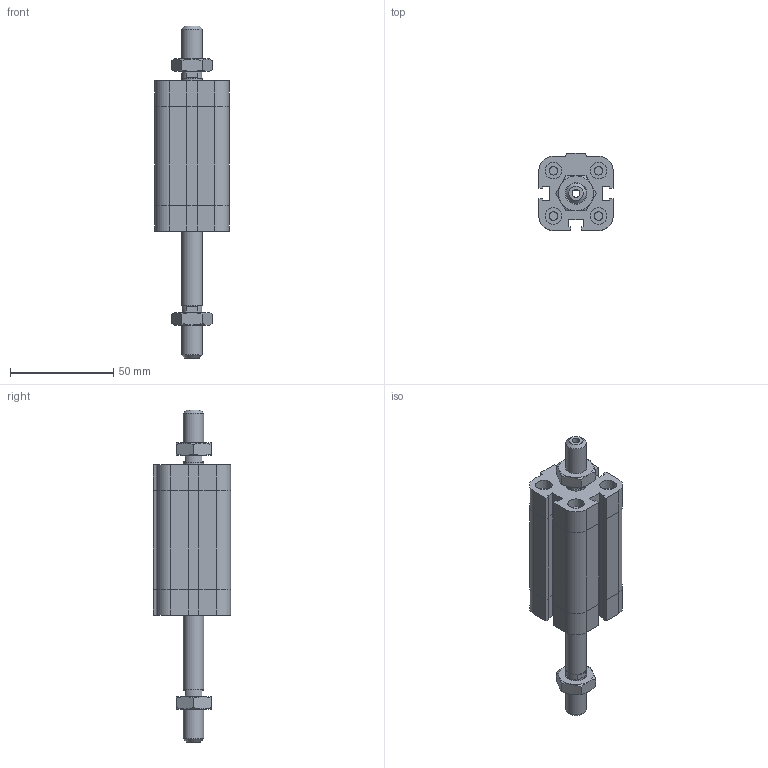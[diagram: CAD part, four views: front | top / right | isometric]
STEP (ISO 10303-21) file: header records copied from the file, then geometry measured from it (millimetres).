
FILE_DESCRIPTION((''),'2;1');
FILE_NAME('I:\Area Tecnica\Disegni\VARIE-3D\Componenti\EUROPE\15##_###_####_05_#\1581_20_0035_05_1.iam.stp','2009-04-20T14:59:56',(''),(''),'Autodesk Inventor 2009','Autodesk Inventor 2009','');
FILE_SCHEMA(('AUTOMOTIVE_DESIGN { 1 0 10303 214 1 1 1 1 }'));
Length unit declared in the file: millimetre
Products named in the file (4): 1581_20_0035_05_1; 1581_20_0035_03_1_C; 1561_20_0035_05_1_S; DBFM10
Assembly tree (4 placements, depth 2):
  1581_20_0035_05_1
    1581_20_0035_03_1_C
    1561_20_0035_05_1_S
    DBFM10  x2
Bounding box: 36 x 37.5 x 161 mm (x, y, z)
Volume: 88744.6 mm3; surface area: 28781.8 mm2
Topology: 4 solids, 4 shells, 223 faces, 486 edges, 291 vertices
Faces by surface type: plane 129, cone 35, bspline 34, cylinder 25
Full cylindrical faces by diameter (mm): 4.134 x4, 7.9 x1, 8 x4, 9.8 x2, 10 x2
Entity records: 5497 total; most frequent: CARTESIAN_POINT 1244, DIRECTION 806, ORIENTED_EDGE 776, EDGE_CURVE 388, AXIS2_PLACEMENT_3D 274, EDGE_LOOP 262, VECTOR 258, LINE 258
